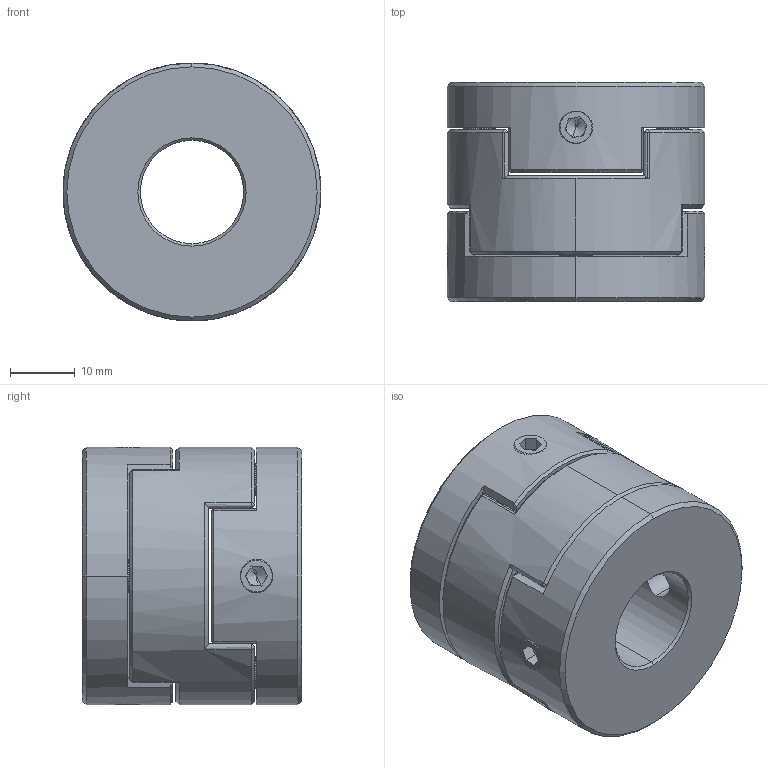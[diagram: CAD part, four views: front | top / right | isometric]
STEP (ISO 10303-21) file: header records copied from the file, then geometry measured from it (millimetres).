
FILE_DESCRIPTION (( 'STEP AP203' ), '1' );
FILE_NAME ('LZ-D-D40L35-16-19.STEP', '2021-10-30T05:23:57', ( '' ), ( '' ), 'SwSTEP 2.0', 'SolidWorks 2018', '' );
FILE_SCHEMA (( 'CONFIG_CONTROL_DESIGN' ));
Length unit declared in the file: millimetre
Products named in the file (1): LZ-D-D40L35-16-19
Bounding box: 40 x 34 x 40 mm (x, y, z)
Volume: 32745.9 mm3; surface area: 12272.4 mm2
Topology: 1 solids, 1 shells, 217 faces, 542 edges, 327 vertices
Faces by surface type: plane 88, bspline 55, cone 48, cylinder 26
Entity records: 7720 total; most frequent: CARTESIAN_POINT 2997, ORIENTED_EDGE 1068, DIRECTION 796, EDGE_CURVE 534, VERTEX_POINT 327, AXIS2_PLACEMENT_3D 289, EDGE_LOOP 243, LINE 218
